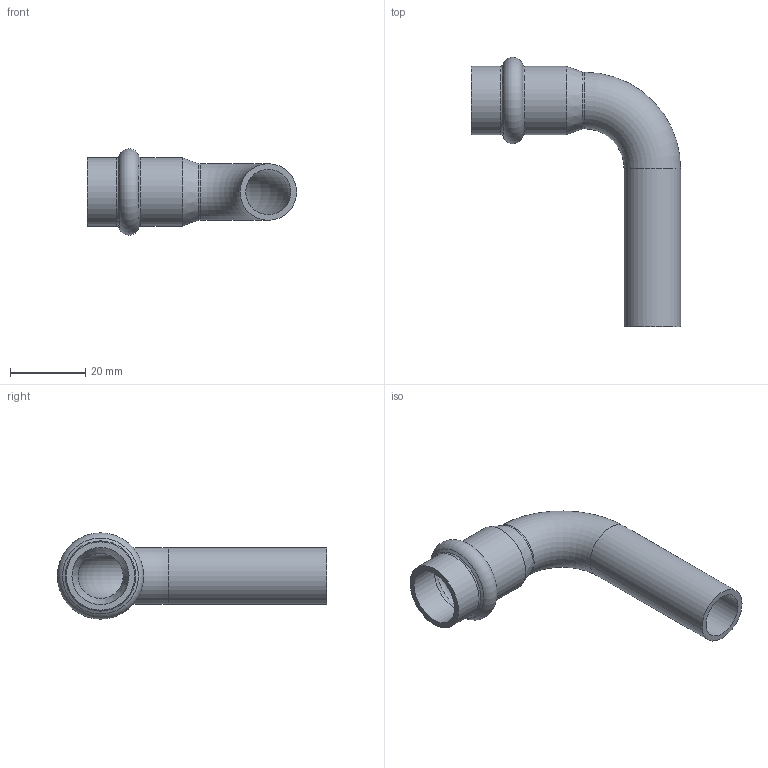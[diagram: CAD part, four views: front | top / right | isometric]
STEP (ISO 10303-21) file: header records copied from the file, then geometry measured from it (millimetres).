
FILE_DESCRIPTION((''),'2;1');
FILE_NAME('G:\Nirosan-Schmiedefeld\Technics\CAD\Bauteile VA\015\69001A15(1).stp','2011-09-05T13:22:57',('herberg'),(''),'Autodesk Inventor 2009','Autodesk Inventor 2009','');
FILE_SCHEMA(('AUTOMOTIVE_DESIGN { 1 0 10303 214 1 1 1 1 }'));
Length unit declared in the file: millimetre
Products named in the file (1): 69001A15(1)
Bounding box: 55.5 x 71.45 x 22.9 mm (x, y, z)
Volume: 7071.1 mm3; surface area: 9570.1 mm2
Topology: 1 solids, 1 shells, 22 faces, 45 edges, 25 vertices
Faces by surface type: cylinder 8, torus 5, cone 4, bspline 3, plane 2
Full cylindrical faces by diameter (mm): 12 x2, 15 x2, 15.15 x2, 18.15 x2
Entity records: 630 total; most frequent: CARTESIAN_POINT 235, DIRECTION 84, ORIENTED_EDGE 44, EDGE_LOOP 44, AXIS2_PLACEMENT_3D 42, VERTEX_POINT 22, CIRCLE 22, EDGE_CURVE 22
